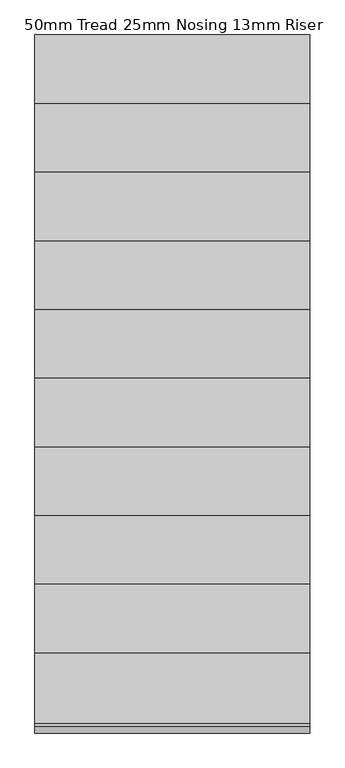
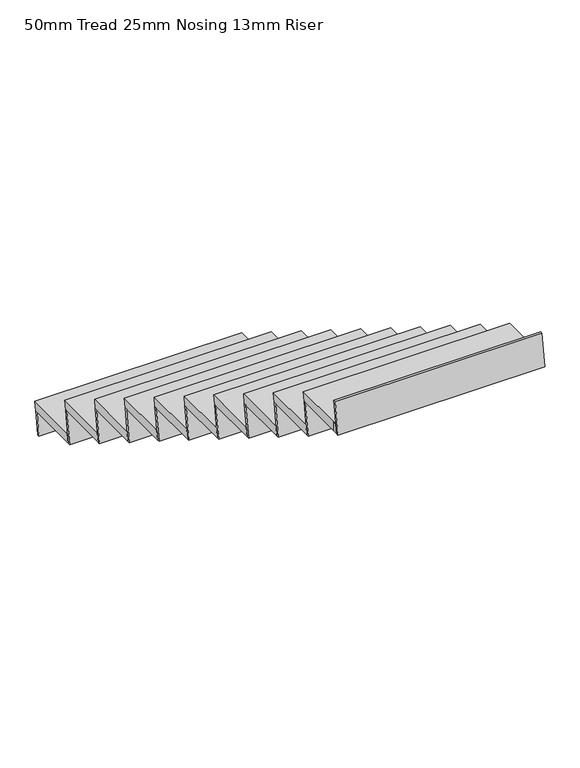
"""IFC4 building model written with IfcOpenShell, lengths in millimetres: stair flight geometry, 50mm Tread 25mm Nosing 13mm Riser."""

import ifcopenshell
import ifcopenshell.guid

model = None  # the IFC model being written
_history = None  # IfcOwnerHistory: only IFC2X3 demands one
_inside = {}  # id of a spatial element -> (the spatial element, [elements in it])
_under = {}  # id of a project, library or spatial element -> (it, [spatial elements below it])
_declared = {}  # id of a project -> (the project, [libraries it declares])
_typed = {}  # id of a type object -> (the type object, [elements of that type])
_made_of = {}  # id of a material, layer set ... -> (it, [elements and type objects made of it])


def new_model(schema):
    """Start an empty IFC model of exactly this schema.

    Asked for "IFC4X3", IfcOpenShell would pick the latest addendum, in which some entities
    have other attributes; the version numbers below select the first issue.
    IFC2X3 requires an IfcOwnerHistory on every rooted entity: one is made here for all.
    """
    global model, _history
    if schema == "IFC4X3":
        model = ifcopenshell.file(schema_version=(4, 3, 0, 0))
    else:
        model = ifcopenshell.file(schema=schema)
    _inside.clear()
    _under.clear()
    _declared.clear()
    _typed.clear()
    _made_of.clear()
    _history = None
    if model.schema == "IFC2X3":
        org = make("IfcOrganization", Name="unknown")
        user = make(
            "IfcPersonAndOrganization",
            ThePerson=make("IfcPerson", FamilyName="unknown"),
            TheOrganization=org,
        )
        app = make(
            "IfcApplication",
            ApplicationDeveloper=org,
            Version="unknown",
            ApplicationFullName="unknown",
            ApplicationIdentifier="unknown",
        )
        _history = make(
            "IfcOwnerHistory",
            OwningUser=user,
            OwningApplication=app,
            ChangeAction="ADDED",
            CreationDate=0,
        )
    return model


def make(cls, **values):
    """One entity of the class cls with the attributes given. An attribute that is None is left unset."""
    return model.create_entity(
        cls, **{name: value for name, value in values.items() if value is not None}
    )


def rooted(cls, **values):
    """An entity with a GlobalId (a new one), such as an element, a storey or a relation."""
    return make(cls, GlobalId=ifcopenshell.guid.new(), OwnerHistory=_history, **values)


def si_unit(unit_type, name, prefix=None):
    """IfcSIUnit, for example si_unit("LENGTHUNIT", "METRE", prefix="MILLI")."""
    return make("IfcSIUnit", UnitType=unit_type, Prefix=prefix, Name=name)


def assignment(units):
    """IfcUnitAssignment: the units of a project."""
    return None if units is None else make("IfcUnitAssignment", Units=units)


def point(xyz):
    """IfcCartesianPoint."""
    return None if xyz is None else make("IfcCartesianPoint", Coordinates=xyz)


def direction(xyz):
    """IfcDirection."""
    return None if xyz is None else make("IfcDirection", DirectionRatios=xyz)


def frame(location, z_axis=None, x_axis=None):
    """IfcAxis2Placement3D, a coordinate frame: its origin and axes. An axis left out is left unset."""
    return make(
        "IfcAxis2Placement3D",
        Location=point(location),
        Axis=direction(z_axis),
        RefDirection=direction(x_axis),
    )


def origin():
    """The frame at (0, 0, 0) with its axes left unset."""
    return frame((0.0, 0.0, 0.0))


def place(relative_to, where):
    """IfcLocalPlacement: puts the frame where relative to a parent placement (None: the world)."""
    return make(
        "IfcLocalPlacement", PlacementRelTo=relative_to, RelativePlacement=where
    )


def context(
    kind, dimensions, precision=None, world=None, true_north=None, identifier=None
):
    """IfcGeometricRepresentationContext, for example the 3D "Model" context."""
    return make(
        "IfcGeometricRepresentationContext",
        ContextIdentifier=identifier,
        ContextType=kind,
        CoordinateSpaceDimension=dimensions,
        Precision=precision,
        WorldCoordinateSystem=world,
        TrueNorth=true_north,
    )


def project(units=None, contexts=None):
    """IfcProject with its units and contexts."""
    return rooted(
        "IfcProject",
        Name="project",
        RepresentationContexts=contexts,
        UnitsInContext=assignment(units),
    )


def spatial(cls, under=None, at=None, **own):
    """A site, building, storey or space (cls), placed at a placement, below another one or the project."""
    s = rooted(cls, ObjectPlacement=at, **own)
    if under is not None:
        _under.setdefault(under.id(), (under, []))[1].append(s)
    return s


def faces_of(points, faces, orient=None, outer=None):
    """IfcFace entities. A face is a list of loops; a loop is a list of indices into points, from 0.

    orient and outer hold one flag for each loop. By default every Orientation is true, the
    first loop of a face is its IfcFaceOuterBound and the others are IfcFaceBound.
    """
    made = []
    for i, loops in enumerate(faces):
        bounds = []
        for j, loop in enumerate(loops):
            is_outer = j == 0 if outer is None else outer[i][j]
            bounds.append(
                make(
                    "IfcFaceOuterBound" if is_outer else "IfcFaceBound",
                    Bound=make("IfcPolyLoop", Polygon=[points[k] for k in loop]),
                    Orientation=True if orient is None else orient[i][j],
                )
            )
        made.append(make("IfcFace", Bounds=bounds))
    return made


def faceted_brep(points, faces, orient=None, outer=None, voids=None):
    """IfcFacetedBrep: a solid bounded by flat faces; with voids (closed shells), ...WithVoids."""
    shared = [point(p) for p in points]
    hull = make("IfcClosedShell", CfsFaces=faces_of(shared, faces, orient, outer))
    if voids is None:
        return make("IfcFacetedBrep", Outer=hull)
    return make(
        "IfcFacetedBrepWithVoids",
        Outer=hull,
        Voids=[
            make(cls, CfsFaces=faces_of(shared, fs, o, b)) for cls, fs, o, b in voids
        ],
    )


def shape(context_of_items, identifier, shape_type, items):
    """IfcShapeRepresentation: the items that make up one representation, for example the "Body"."""
    return make(
        "IfcShapeRepresentation",
        ContextOfItems=context_of_items,
        RepresentationIdentifier=identifier,
        RepresentationType=shape_type,
        Items=items,
    )


def source(mapping_origin, context_of_items, identifier, shape_type, items):
    """IfcRepresentationMap: a shape defined once, which mapped items show again and again."""
    return make(
        "IfcRepresentationMap",
        MappingOrigin=mapping_origin,
        MappedRepresentation=shape(context_of_items, identifier, shape_type, items),
    )


def transform(
    local_origin,
    x_axis=None,
    y_axis=None,
    z_axis=None,
    scale=None,
    scale2=None,
    scale3=None,
    uniform=True,
):
    """IfcCartesianTransformationOperator3D, or its non-uniform kind. x_axis, y_axis, z_axis: its Axis1, 2, 3."""
    if uniform:
        return make(
            "IfcCartesianTransformationOperator3D",
            Axis1=direction(x_axis),
            Axis2=direction(y_axis),
            LocalOrigin=point(local_origin),
            Scale=scale,
            Axis3=direction(z_axis),
        )
    return make(
        "IfcCartesianTransformationOperator3DnonUniform",
        Axis1=direction(x_axis),
        Axis2=direction(y_axis),
        LocalOrigin=point(local_origin),
        Scale=scale,
        Axis3=direction(z_axis),
        Scale2=scale2,
        Scale3=scale3,
    )


def mapped(mapping_source, mapping_target):
    """IfcMappedItem: shows the shape of a source again, moved by a transform."""
    return make(
        "IfcMappedItem", MappingSource=mapping_source, MappingTarget=mapping_target
    )


def made_of(thing, what):
    """Note that an element or type object is made of a material, layer set ...; save() writes the relation."""
    if what is not None:
        _made_of.setdefault(what.id(), (what, []))[1].append(thing)
    return thing


def element(
    cls,
    number,
    at=None,
    inside=None,
    cuts=None,
    type_object=None,
    material=None,
    context=None,
    identifier="Body",
    shape_type=None,
    held_by="IfcProductDefinitionShape",
    body=None,
    shapes=None,
    **own,
):
    """One element of the class cls, such as IfcWall. Its Tag is "e" and its number.

    at: its placement. inside: the storey or other place that contains it. cuts: it is an
    opening in that element (IfcRelVoidsElement). A single representation is given by context,
    identifier, shape_type and body (its items); several are given by shapes. held_by: the class
    of the entity that holds the representations. save() writes the other relations.
    """
    e = rooted(cls, Tag="e%d" % number, ObjectPlacement=at, **own)
    if body is not None:
        shapes = [shape(context, identifier, shape_type, body)]
    if shapes is not None:
        e.Representation = make(held_by, Representations=shapes)
    if inside is not None:
        _inside.setdefault(inside.id(), (inside, []))[1].append(e)
    if cuts is not None:
        rooted(
            "IfcRelVoidsElement", RelatingBuildingElement=cuts, RelatedOpeningElement=e
        )
    if type_object is not None:
        _typed.setdefault(type_object.id(), (type_object, []))[1].append(e)
    return made_of(e, material)


def aggregate(whole, parts):
    """IfcRelAggregates: a whole, such as a stair, and the parts it consists of."""
    return rooted("IfcRelAggregates", RelatingObject=whole, RelatedObjects=parts)


def save(model, path):
    """Write the relations noted so far, then the file.

    IfcRelAggregates (storeys below a building ...), IfcRelContainedInSpatialStructure (elements
    in a storey), IfcRelDefinesByType, IfcRelAssociatesMaterial and IfcRelDeclares: one each for
    every whole, place, type object, material and project.
    """
    for whole, parts in _under.values():
        aggregate(whole, parts)
    for where, things in _inside.values():
        rooted(
            "IfcRelContainedInSpatialStructure",
            RelatedElements=things,
            RelatingStructure=where,
        )
    for kind, things in _typed.values():
        rooted("IfcRelDefinesByType", RelatedObjects=things, RelatingType=kind)
    for what, things in _made_of.values():
        rooted("IfcRelAssociatesMaterial", RelatedObjects=things, RelatingMaterial=what)
    for by, libraries in _declared.values():
        rooted("IfcRelDeclares", RelatingContext=by, RelatedDefinitions=libraries)
    model.write(path)


def stair_flight_50mm_tread_25mm_nosing_13mm_riser_1179de64(model_context):
    return source(origin(), model_context, "Body", "Brep", [
        faceted_brep([(2568.6567657, 5700.5392059, 172.7272727), (2568.6567657, 5693.3023638, 122.7272727), (3668.6567657, 5693.3023638, 122.7272727), (3668.6567657, 5700.5392059, 172.7272727), (3668.6567657, 6000.5392059, 172.7272727), (2568.6567657, 6000.5392059, 172.7272727), (2568.6567657, 5993.3023638, 122.7272727), (3668.6567657, 5993.3023638, 122.7272727)], [[[0, 1, 2, 3]], [[3, 4, 5, 0]], [[2, 1, 6, 7]], [[4, 3, 2, 7]], [[0, 5, 6, 1]], [[5, 4, 7, 6]]]),
        faceted_brep([(2568.6567657, 5993.3023638, 122.7272727), (2568.6567657, 5975.5392059, 0.0), (2568.6567657, 5962.9089548, 0.0), (2568.6567657, 5980.6721127, 122.7272727), (3668.6567657, 5993.3023638, 122.7272727), (3668.6567657, 5980.6721127, 122.7272727), (3668.6567657, 5962.9089548, 0.0), (3668.6567657, 5975.5392059, 0.0)], [[[0, 1, 2, 3]], [[4, 5, 6, 7]], [[1, 0, 4, 7]], [[2, 1, 7, 6]], [[3, 2, 6, 5]], [[0, 3, 5, 4]]]),
        faceted_brep([(2568.6567657, 5718.3023638, 295.4545455), (2568.6567657, 5693.3023638, 122.7272727), (2568.6567657, 5680.6721127, 122.7272727), (2568.6567657, 5705.6721127, 295.4545455), (3668.6567657, 5718.3023638, 295.4545455), (3668.6567657, 5705.6721127, 295.4545455), (3668.6567657, 5680.6721127, 122.7272727), (3668.6567657, 5693.3023638, 122.7272727)], [[[0, 1, 2, 3]], [[4, 5, 6, 7]], [[1, 0, 4, 7]], [[2, 1, 7, 6]], [[3, 2, 6, 5]], [[0, 3, 5, 4]]]),
        faceted_brep([(3668.6567657, 5425.5392059, 345.4545455), (3668.6567657, 5725.5392059, 345.4545455), (2568.6567657, 5725.5392059, 345.4545455), (2568.6567657, 5425.5392059, 345.4545455), (3668.6567657, 5418.3023638, 295.4545455), (2568.6567657, 5418.3023638, 295.4545455), (2568.6567657, 5718.3023638, 295.4545455), (3668.6567657, 5718.3023638, 295.4545455)], [[[0, 1, 2, 3]], [[4, 5, 6, 7]], [[1, 0, 4, 7]], [[3, 2, 6, 5]], [[3, 5, 4, 0]], [[2, 1, 7, 6]]]),
        faceted_brep([(2568.6567657, 5443.3023638, 468.1818182), (2568.6567657, 5418.3023638, 295.4545455), (2568.6567657, 5405.6721127, 295.4545455), (2568.6567657, 5430.6721127, 468.1818182), (3668.6567657, 5443.3023638, 468.1818182), (3668.6567657, 5430.6721127, 468.1818182), (3668.6567657, 5405.6721127, 295.4545455), (3668.6567657, 5418.3023638, 295.4545455)], [[[0, 1, 2, 3]], [[4, 5, 6, 7]], [[1, 0, 4, 7]], [[2, 1, 7, 6]], [[3, 2, 6, 5]], [[0, 3, 5, 4]]]),
        faceted_brep([(3668.6567657, 5150.5392059, 518.1818182), (3668.6567657, 5450.5392059, 518.1818182), (2568.6567657, 5450.5392059, 518.1818182), (2568.6567657, 5150.5392059, 518.1818182), (3668.6567657, 5143.3023638, 468.1818182), (2568.6567657, 5143.3023638, 468.1818182), (2568.6567657, 5443.3023638, 468.1818182), (3668.6567657, 5443.3023638, 468.1818182)], [[[0, 1, 2, 3]], [[4, 5, 6, 7]], [[1, 0, 4, 7]], [[3, 2, 6, 5]], [[3, 5, 4, 0]], [[2, 1, 7, 6]]]),
        faceted_brep([(2568.6567657, 5168.3023638, 640.9090909), (2568.6567657, 5143.3023638, 468.1818182), (2568.6567657, 5130.6721127, 468.1818182), (2568.6567657, 5155.6721127, 640.9090909), (3668.6567657, 5168.3023638, 640.9090909), (3668.6567657, 5155.6721127, 640.9090909), (3668.6567657, 5130.6721127, 468.1818182), (3668.6567657, 5143.3023638, 468.1818182)], [[[0, 1, 2, 3]], [[4, 5, 6, 7]], [[1, 0, 4, 7]], [[2, 1, 7, 6]], [[3, 2, 6, 5]], [[0, 3, 5, 4]]]),
        faceted_brep([(3668.6567657, 4875.5392059, 690.9090909), (3668.6567657, 5175.5392059, 690.9090909), (2568.6567657, 5175.5392059, 690.9090909), (2568.6567657, 4875.5392059, 690.9090909), (3668.6567657, 4868.3023638, 640.9090909), (2568.6567657, 4868.3023638, 640.9090909), (2568.6567657, 5168.3023638, 640.9090909), (3668.6567657, 5168.3023638, 640.9090909)], [[[0, 1, 2, 3]], [[4, 5, 6, 7]], [[1, 0, 4, 7]], [[3, 2, 6, 5]], [[3, 5, 4, 0]], [[2, 1, 7, 6]]]),
        faceted_brep([(2568.6567657, 4893.3023638, 813.6363636), (2568.6567657, 4868.3023638, 640.9090909), (2568.6567657, 4855.6721127, 640.9090909), (2568.6567657, 4880.6721127, 813.6363636), (3668.6567657, 4893.3023638, 813.6363636), (3668.6567657, 4880.6721127, 813.6363636), (3668.6567657, 4855.6721127, 640.9090909), (3668.6567657, 4868.3023638, 640.9090909)], [[[0, 1, 2, 3]], [[4, 5, 6, 7]], [[1, 0, 4, 7]], [[2, 1, 7, 6]], [[3, 2, 6, 5]], [[0, 3, 5, 4]]]),
        faceted_brep([(3668.6567657, 4600.5392059, 863.6363636), (3668.6567657, 4900.5392059, 863.6363636), (2568.6567657, 4900.5392059, 863.6363636), (2568.6567657, 4600.5392059, 863.6363636), (3668.6567657, 4593.3023638, 813.6363636), (2568.6567657, 4593.3023638, 813.6363636), (2568.6567657, 4893.3023638, 813.6363636), (3668.6567657, 4893.3023638, 813.6363636)], [[[0, 1, 2, 3]], [[4, 5, 6, 7]], [[1, 0, 4, 7]], [[3, 2, 6, 5]], [[3, 5, 4, 0]], [[2, 1, 7, 6]]]),
        faceted_brep([(2568.6567657, 4618.3023638, 986.3636364), (2568.6567657, 4593.3023638, 813.6363636), (2568.6567657, 4580.6721127, 813.6363636), (2568.6567657, 4605.6721127, 986.3636364), (3668.6567657, 4618.3023638, 986.3636364), (3668.6567657, 4605.6721127, 986.3636364), (3668.6567657, 4580.6721127, 813.6363636), (3668.6567657, 4593.3023638, 813.6363636)], [[[0, 1, 2, 3]], [[4, 5, 6, 7]], [[1, 0, 4, 7]], [[2, 1, 7, 6]], [[3, 2, 6, 5]], [[0, 3, 5, 4]]]),
        faceted_brep([(3668.6567657, 4325.5392059, 1036.3636364), (3668.6567657, 4625.5392059, 1036.3636364), (2568.6567657, 4625.5392059, 1036.3636364), (2568.6567657, 4325.5392059, 1036.3636364), (3668.6567657, 4318.3023638, 986.3636364), (2568.6567657, 4318.3023638, 986.3636364), (2568.6567657, 4618.3023638, 986.3636364), (3668.6567657, 4618.3023638, 986.3636364)], [[[0, 1, 2, 3]], [[4, 5, 6, 7]], [[1, 0, 4, 7]], [[3, 2, 6, 5]], [[3, 5, 4, 0]], [[2, 1, 7, 6]]]),
        faceted_brep([(2568.6567657, 4343.3023638, 1159.0909091), (2568.6567657, 4318.3023638, 986.3636364), (2568.6567657, 4305.6721127, 986.3636364), (2568.6567657, 4330.6721127, 1159.0909091), (3668.6567657, 4343.3023638, 1159.0909091), (3668.6567657, 4330.6721127, 1159.0909091), (3668.6567657, 4305.6721127, 986.3636364), (3668.6567657, 4318.3023638, 986.3636364)], [[[0, 1, 2, 3]], [[4, 5, 6, 7]], [[1, 0, 4, 7]], [[2, 1, 7, 6]], [[3, 2, 6, 5]], [[0, 3, 5, 4]]]),
        faceted_brep([(3668.6567657, 4050.5392059, 1209.0909091), (3668.6567657, 4350.5392059, 1209.0909091), (2568.6567657, 4350.5392059, 1209.0909091), (2568.6567657, 4050.5392059, 1209.0909091), (3668.6567657, 4043.3023638, 1159.0909091), (2568.6567657, 4043.3023638, 1159.0909091), (2568.6567657, 4343.3023638, 1159.0909091), (3668.6567657, 4343.3023638, 1159.0909091)], [[[0, 1, 2, 3]], [[4, 5, 6, 7]], [[1, 0, 4, 7]], [[3, 2, 6, 5]], [[3, 5, 4, 0]], [[2, 1, 7, 6]]]),
        faceted_brep([(2568.6567657, 4068.3023638, 1331.8181818), (2568.6567657, 4043.3023638, 1159.0909091), (2568.6567657, 4030.6721127, 1159.0909091), (2568.6567657, 4055.6721127, 1331.8181818), (3668.6567657, 4068.3023638, 1331.8181818), (3668.6567657, 4055.6721127, 1331.8181818), (3668.6567657, 4030.6721127, 1159.0909091), (3668.6567657, 4043.3023638, 1159.0909091)], [[[0, 1, 2, 3]], [[4, 5, 6, 7]], [[1, 0, 4, 7]], [[2, 1, 7, 6]], [[3, 2, 6, 5]], [[0, 3, 5, 4]]]),
        faceted_brep([(3668.6567657, 3775.5392059, 1381.8181818), (3668.6567657, 4075.5392059, 1381.8181818), (2568.6567657, 4075.5392059, 1381.8181818), (2568.6567657, 3775.5392059, 1381.8181818), (3668.6567657, 3768.3023638, 1331.8181818), (2568.6567657, 3768.3023638, 1331.8181818), (2568.6567657, 4068.3023638, 1331.8181818), (3668.6567657, 4068.3023638, 1331.8181818)], [[[0, 1, 2, 3]], [[4, 5, 6, 7]], [[1, 0, 4, 7]], [[3, 2, 6, 5]], [[3, 5, 4, 0]], [[2, 1, 7, 6]]]),
        faceted_brep([(2568.6567657, 3793.3023638, 1504.5454545), (2568.6567657, 3768.3023638, 1331.8181818), (2568.6567657, 3755.6721127, 1331.8181818), (2568.6567657, 3780.6721127, 1504.5454545), (3668.6567657, 3793.3023638, 1504.5454545), (3668.6567657, 3780.6721127, 1504.5454545), (3668.6567657, 3755.6721127, 1331.8181818), (3668.6567657, 3768.3023638, 1331.8181818)], [[[0, 1, 2, 3]], [[4, 5, 6, 7]], [[1, 0, 4, 7]], [[2, 1, 7, 6]], [[3, 2, 6, 5]], [[0, 3, 5, 4]]]),
        faceted_brep([(3668.6567657, 3500.5392059, 1554.5454545), (3668.6567657, 3800.5392059, 1554.5454545), (2568.6567657, 3800.5392059, 1554.5454545), (2568.6567657, 3500.5392059, 1554.5454545), (3668.6567657, 3493.3023638, 1504.5454545), (2568.6567657, 3493.3023638, 1504.5454545), (2568.6567657, 3793.3023638, 1504.5454545), (3668.6567657, 3793.3023638, 1504.5454545)], [[[0, 1, 2, 3]], [[4, 5, 6, 7]], [[1, 0, 4, 7]], [[3, 2, 6, 5]], [[3, 5, 4, 0]], [[2, 1, 7, 6]]]),
        faceted_brep([(2568.6567657, 3243.3023638, 1850.0), (2568.6567657, 3218.3023638, 1677.2727273), (2568.6567657, 3205.6721127, 1677.2727273), (2568.6567657, 3230.6721127, 1850.0), (3668.6567657, 3243.3023638, 1850.0), (3668.6567657, 3230.6721127, 1850.0), (3668.6567657, 3205.6721127, 1677.2727273), (3668.6567657, 3218.3023638, 1677.2727273)], [[[0, 1, 2, 3]], [[4, 5, 6, 7]], [[1, 0, 4, 7]], [[2, 1, 7, 6]], [[3, 2, 6, 5]], [[0, 3, 5, 4]]]),
        faceted_brep([(2568.6567657, 3518.3023638, 1677.2727273), (2568.6567657, 3493.3023638, 1504.5454545), (2568.6567657, 3480.6721127, 1504.5454545), (2568.6567657, 3505.6721127, 1677.2727273), (3668.6567657, 3518.3023638, 1677.2727273), (3668.6567657, 3505.6721127, 1677.2727273), (3668.6567657, 3480.6721127, 1504.5454545), (3668.6567657, 3493.3023638, 1504.5454545)], [[[0, 1, 2, 3]], [[4, 5, 6, 7]], [[1, 0, 4, 7]], [[2, 1, 7, 6]], [[3, 2, 6, 5]], [[0, 3, 5, 4]]]),
        faceted_brep([(3668.6567657, 3225.5392059, 1727.2727273), (3668.6567657, 3250.5392059, 1727.2727273), (3668.6567657, 3525.5392059, 1727.2727273), (2568.6567657, 3525.5392059, 1727.2727273), (2568.6567657, 3250.5392059, 1727.2727273), (2568.6567657, 3225.5392059, 1727.2727273), (3668.6567657, 3218.3023638, 1677.2727273), (2568.6567657, 3218.3023638, 1677.2727273), (2568.6567657, 3250.5392059, 1677.2727273), (2568.6567657, 3518.3023638, 1677.2727273), (3668.6567657, 3518.3023638, 1677.2727273), (3668.6567657, 3250.5392059, 1677.2727273)], [[[0, 1, 2, 3, 4, 5]], [[6, 7, 8, 9, 10, 11]], [[1, 0, 6, 11]], [[2, 1, 11, 10]], [[4, 3, 9, 8]], [[5, 4, 8, 7]], [[5, 7, 6, 0]], [[3, 2, 10, 9]]]),
    ])


if __name__ == "__main__":
    model = new_model("IFC4")
    model_context = context("Model", 3, world=origin())
    ifc_project = project(units=[si_unit("LENGTHUNIT", "METRE", prefix="MILLI")], contexts=[model_context])
    site = spatial("IfcSite", under=ifc_project)
    building = spatial("IfcBuilding", under=site)
    placement = place(None, origin())
    stair_flight_50mm_tread_25mm_nosing_13mm_riser_shape = stair_flight_50mm_tread_25mm_nosing_13mm_riser_1179de64(model_context)
    element("IfcStairFlight", 1, ObjectType="50mm Tread 25mm Nosing 13mm Riser", at=placement, inside=building, context=model_context, shape_type="MappedRepresentation", body=[
        mapped(stair_flight_50mm_tread_25mm_nosing_13mm_riser_shape, transform((0.0, 0.0, 0.0), x_axis=(1.0, 0.0, 0.0), y_axis=(0.0, 1.0, 0.0), z_axis=(0.0, 0.0, 1.0))),
    ])
    save(model, "model.ifc")
